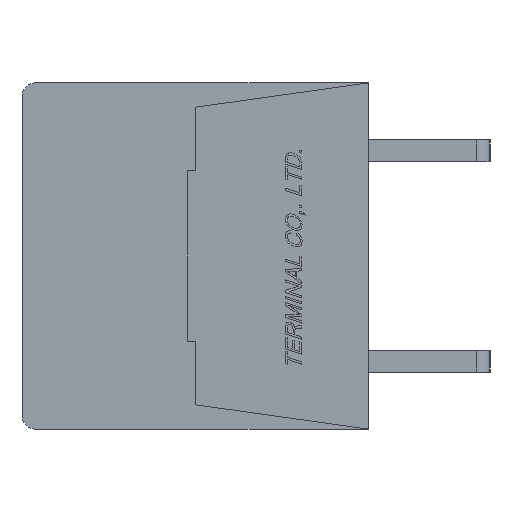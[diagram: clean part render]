
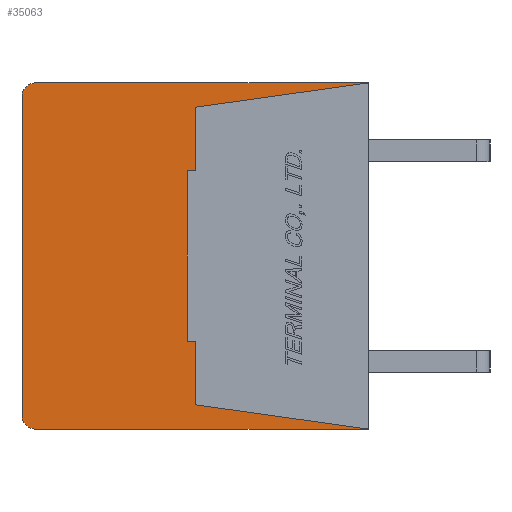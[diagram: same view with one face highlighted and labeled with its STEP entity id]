
A CAD part, left-side view. The second image highlights one B-rep face of the part: STEP entity #35063.
In plain terms, the highlighted planar face has unit normal (-1, 0, 0).
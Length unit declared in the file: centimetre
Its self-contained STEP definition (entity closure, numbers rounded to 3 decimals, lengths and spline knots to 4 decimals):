
#1804=CIRCLE('',#59885,0.05);
#1805=CIRCLE('',#59888,0.05);
#3295=VERTEX_POINT('',#49089);
#3296=VERTEX_POINT('',#49091);
#3297=VERTEX_POINT('',#49095);
#3298=VERTEX_POINT('',#49099);
#3299=VERTEX_POINT('',#49103);
#3300=VERTEX_POINT('',#49107);
#3301=VERTEX_POINT('',#49110);
#3302=VERTEX_POINT('',#49112);
#3303=VERTEX_POINT('',#49114);
#3304=VERTEX_POINT('',#49116);
#3305=VERTEX_POINT('',#49118);
#3306=VERTEX_POINT('',#49120);
#6957=VECTOR('',#40707,1.);
#6961=VECTOR('',#40716,1.);
#6964=VECTOR('',#40724,1.);
#6965=VECTOR('',#40725,1.);
#6966=VECTOR('',#40726,1.);
#6967=VECTOR('',#40727,1.);
#6968=VECTOR('',#40728,1.);
#6969=VECTOR('',#40729,1.);
#6970=VECTOR('',#40730,1.);
#6971=VECTOR('',#40731,1.);
#11077=LINE('',#49090,#6957);
#11081=LINE('',#49100,#6961);
#11084=LINE('',#49108,#6964);
#11085=LINE('',#49109,#6965);
#11086=LINE('',#49111,#6966);
#11087=LINE('',#49113,#6967);
#11088=LINE('',#49115,#6968);
#11089=LINE('',#49117,#6969);
#11090=LINE('',#49119,#6970);
#11091=LINE('',#49121,#6971);
#15729=EDGE_CURVE('',#3296,#3295,#11077,.T.);
#15732=EDGE_CURVE('',#3297,#3295,#1804,.T.);
#15734=EDGE_CURVE('',#3297,#3298,#11081,.T.);
#15736=EDGE_CURVE('',#3299,#3298,#1805,.T.);
#15738=EDGE_CURVE('',#3299,#3300,#11084,.T.);
#15739=EDGE_CURVE('',#3301,#3296,#11085,.T.);
#15740=EDGE_CURVE('',#3300,#3302,#11086,.T.);
#15741=EDGE_CURVE('',#3302,#3303,#11087,.T.);
#15742=EDGE_CURVE('',#3303,#3304,#11088,.T.);
#15743=EDGE_CURVE('',#3304,#3305,#11089,.T.);
#15744=EDGE_CURVE('',#3305,#3306,#11090,.T.);
#15745=EDGE_CURVE('',#3306,#3301,#11091,.T.);
#22883=ORIENTED_EDGE('',*,*,#15739,.T.);
#22884=ORIENTED_EDGE('',*,*,#15729,.T.);
#22885=ORIENTED_EDGE('',*,*,#15732,.F.);
#22886=ORIENTED_EDGE('',*,*,#15734,.T.);
#22887=ORIENTED_EDGE('',*,*,#15736,.F.);
#22888=ORIENTED_EDGE('',*,*,#15738,.T.);
#22889=ORIENTED_EDGE('',*,*,#15740,.T.);
#22890=ORIENTED_EDGE('',*,*,#15741,.T.);
#22891=ORIENTED_EDGE('',*,*,#15742,.T.);
#22892=ORIENTED_EDGE('',*,*,#15743,.T.);
#22893=ORIENTED_EDGE('',*,*,#15744,.T.);
#22894=ORIENTED_EDGE('',*,*,#15745,.T.);
#30567=EDGE_LOOP('',(#22883,#22884,#22885,#22886,#22887,#22888,#22889,#22890,
#22891,#22892,#22893,#22894));
#32863=FACE_BOUND('',#30567,.T.);
#35063=ADVANCED_FACE('',(#32863),#36938,.F.);
#36938=PLANE('',#59882);
#40593=DIRECTION('',(1.,0.,0.));
#40707=DIRECTION('',(0.,1.,0.));
#40712=DIRECTION('',(1.,0.,0.));
#40713=DIRECTION('',(0.,0.,-0.05));
#40716=DIRECTION('',(0.,0.,-1.));
#40720=DIRECTION('',(1.,0.,0.));
#40721=DIRECTION('',(0.,0.,-0.05));
#40724=DIRECTION('',(0.,-1.,0.));
#40725=DIRECTION('',(0.,-0.99,0.139));
#40726=DIRECTION('',(0.,0.99,0.139));
#40727=DIRECTION('',(0.,0.,1.));
#40728=DIRECTION('',(0.,1.,0.));
#40729=DIRECTION('',(0.,0.,1.));
#40730=DIRECTION('',(0.,-1.,0.));
#40731=DIRECTION('',(0.,0.,1.));
#48656=CARTESIAN_POINT('',(-1.,0.6345,0.));
#49089=CARTESIAN_POINT('',(-1.,1.23,0.64));
#49090=CARTESIAN_POINT('',(-1.,0.,0.64));
#49091=CARTESIAN_POINT('',(-1.,0.,0.64));
#49095=CARTESIAN_POINT('',(-1.,1.28,0.59));
#49096=CARTESIAN_POINT('',(-1.,1.23,0.59));
#49099=CARTESIAN_POINT('',(-1.,1.28,-0.59));
#49100=CARTESIAN_POINT('',(-1.,1.28,0.59));
#49103=CARTESIAN_POINT('',(-1.,1.23,-0.64));
#49104=CARTESIAN_POINT('',(-1.,1.23,-0.59));
#49107=CARTESIAN_POINT('',(-1.,0.,-0.64));
#49108=CARTESIAN_POINT('',(-1.,1.23,-0.64));
#49109=CARTESIAN_POINT('',(-1.,0.64,0.55));
#49110=CARTESIAN_POINT('',(-1.,0.64,0.55));
#49111=CARTESIAN_POINT('',(-1.,0.,-0.64));
#49112=CARTESIAN_POINT('',(-1.,0.64,-0.55));
#49113=CARTESIAN_POINT('',(-1.,0.64,-0.55));
#49114=CARTESIAN_POINT('',(-1.,0.64,-0.315));
#49115=CARTESIAN_POINT('',(-1.,0.64,-0.315));
#49116=CARTESIAN_POINT('',(-1.,0.67,-0.315));
#49117=CARTESIAN_POINT('',(-1.,0.67,-0.315));
#49118=CARTESIAN_POINT('',(-1.,0.67,0.315));
#49119=CARTESIAN_POINT('',(-1.,0.67,0.315));
#49120=CARTESIAN_POINT('',(-1.,0.64,0.315));
#49121=CARTESIAN_POINT('',(-1.,0.64,0.315));
#59882=AXIS2_PLACEMENT_3D('',#48656,#40593,$);
#59885=AXIS2_PLACEMENT_3D('',#49096,#40712,#40713);
#59888=AXIS2_PLACEMENT_3D('',#49104,#40720,#40721);
